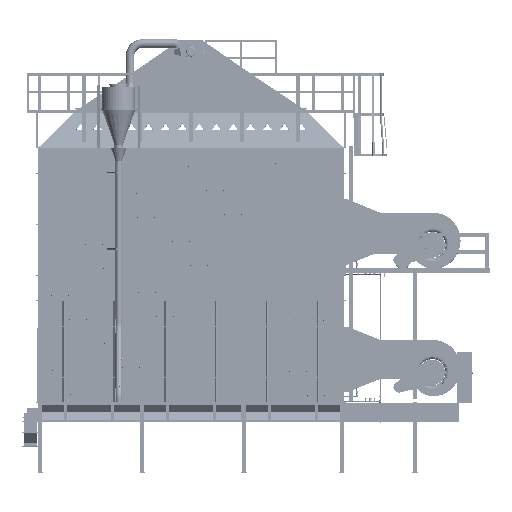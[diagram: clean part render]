
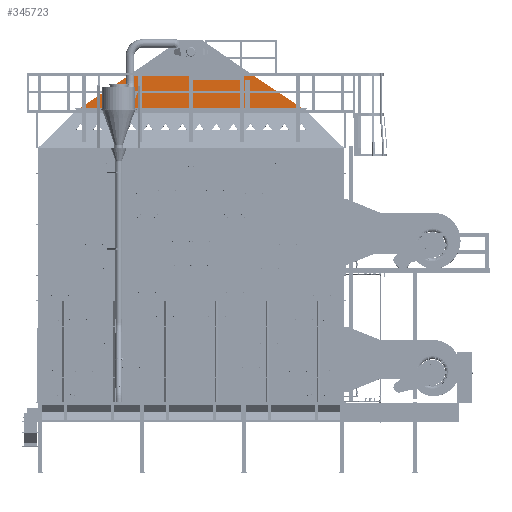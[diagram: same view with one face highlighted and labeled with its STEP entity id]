
A CAD part, top view. The second image highlights one B-rep face of the part: STEP entity #345723.
In plain terms, the highlighted planar face has unit normal (0, 0, 1) as drawn and (0, 1, 0) by its records, which use the part's own axes.
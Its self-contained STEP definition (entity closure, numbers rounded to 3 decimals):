
#63779=FACE_OUTER_BOUND('',#84258,.T.);
#84258=EDGE_LOOP('',(#308377,#308378,#308379,#308380));
#109797=LINE('',#802246,#138218);
#109807=LINE('',#802266,#138228);
#109808=LINE('',#802268,#138229);
#109809=LINE('',#802269,#138230);
#138218=VECTOR('',#454863,0.394);
#138228=VECTOR('',#454883,0.394);
#138229=VECTOR('',#454884,0.394);
#138230=VECTOR('',#454885,0.394);
#170772=VERTEX_POINT('',#802243);
#170773=VERTEX_POINT('',#802245);
#170778=VERTEX_POINT('',#802265);
#170779=VERTEX_POINT('',#802267);
#217318=EDGE_CURVE('',#170773,#170772,#109797,.T.);
#217328=EDGE_CURVE('',#170772,#170778,#109807,.T.);
#217329=EDGE_CURVE('',#170779,#170778,#109808,.T.);
#217330=EDGE_CURVE('',#170779,#170773,#109809,.T.);
#308377=ORIENTED_EDGE('',*,*,#217318,.T.);
#308378=ORIENTED_EDGE('',*,*,#217328,.T.);
#308379=ORIENTED_EDGE('',*,*,#217329,.F.);
#308380=ORIENTED_EDGE('',*,*,#217330,.T.);
#327350=PLANE('',#376057);
#345723=ADVANCED_FACE('',(#63779),#327350,.T.);
#376057=AXIS2_PLACEMENT_3D('',#802264,#454881,#454882);
#454863=DIRECTION('',(-1.,0.,0.));
#454881=DIRECTION('center_axis',(0.,1.,0.));
#454882=DIRECTION('ref_axis',(0.,0.,1.));
#454883=DIRECTION('',(0.833,0.,0.554));
#454884=DIRECTION('',(-1.,0.,0.));
#454885=DIRECTION('',(0.833,0.,-0.554));
#802243=CARTESIAN_POINT('',(-106.562,6.,-31.875));
#802245=CARTESIAN_POINT('',(106.562,6.,-31.875));
#802246=CARTESIAN_POINT('',(0.,6.,-31.875));
#802264=CARTESIAN_POINT('Origin',(0.,6.,-16.));
#802265=CARTESIAN_POINT('',(-58.625,6.,0.));
#802266=CARTESIAN_POINT('',(-106.75,6.,-32.));
#802267=CARTESIAN_POINT('',(58.625,6.,0.));
#802268=CARTESIAN_POINT('',(0.,6.,0.));
#802269=CARTESIAN_POINT('',(58.625,6.,0.));
